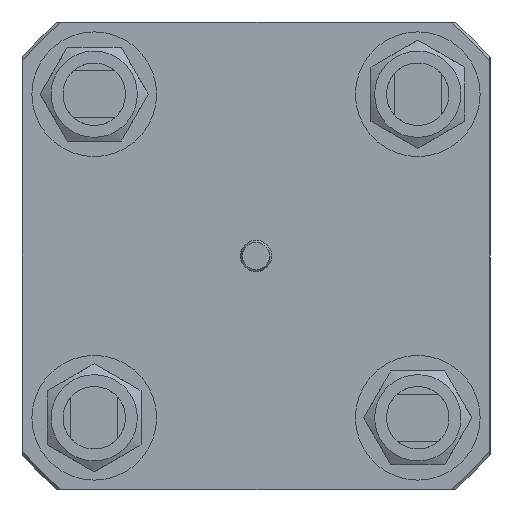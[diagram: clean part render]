
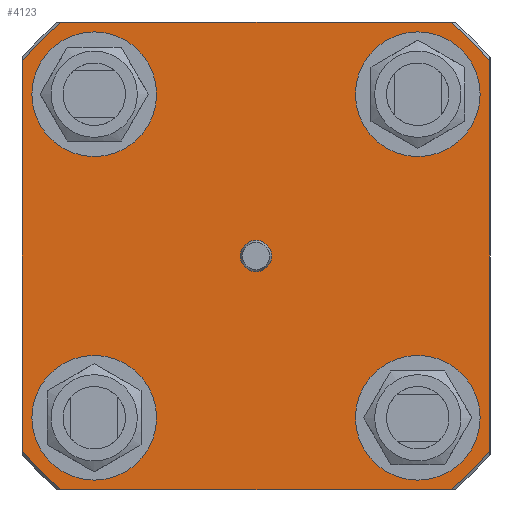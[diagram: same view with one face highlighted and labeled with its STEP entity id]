
A CAD part, left-side view. The second image highlights one B-rep face of the part: STEP entity #4123.
In plain terms, the highlighted planar face has unit normal (-1, 0, 0).
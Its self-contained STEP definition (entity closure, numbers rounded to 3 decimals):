
#242=FACE_BOUND('',#751,.T.);
#243=FACE_BOUND('',#752,.T.);
#244=FACE_BOUND('',#753,.T.);
#245=FACE_BOUND('',#754,.T.);
#246=FACE_BOUND('',#755,.T.);
#328=PLANE('',#4513);
#484=FACE_OUTER_BOUND('',#750,.T.);
#750=EDGE_LOOP('',(#3157,#3158,#3159,#3160,#3161,#3162,#3163,#3164));
#751=EDGE_LOOP('',(#3165));
#752=EDGE_LOOP('',(#3166));
#753=EDGE_LOOP('',(#3167));
#754=EDGE_LOOP('',(#3168));
#755=EDGE_LOOP('',(#3169));
#1019=LINE('',#6752,#1251);
#1020=LINE('',#6756,#1252);
#1021=LINE('',#6760,#1253);
#1022=LINE('',#6764,#1254);
#1251=VECTOR('',#5379,10.);
#1252=VECTOR('',#5382,10.);
#1253=VECTOR('',#5385,10.);
#1254=VECTOR('',#5388,10.);
#1452=CIRCLE('',#4437,3.);
#1463=CIRCLE('',#4479,12.);
#1465=CIRCLE('',#4483,12.);
#1467=CIRCLE('',#4487,12.);
#1471=CIRCLE('',#4502,12.);
#1480=CIRCLE('',#4514,58.5);
#1481=CIRCLE('',#4515,58.5);
#1482=CIRCLE('',#4516,58.5);
#1483=CIRCLE('',#4517,58.5);
#1730=VERTEX_POINT('',#6376);
#1777=VERTEX_POINT('',#6599);
#1779=VERTEX_POINT('',#6606);
#1781=VERTEX_POINT('',#6613);
#1797=VERTEX_POINT('',#6689);
#1812=VERTEX_POINT('',#6750);
#1813=VERTEX_POINT('',#6751);
#1814=VERTEX_POINT('',#6753);
#1815=VERTEX_POINT('',#6755);
#1816=VERTEX_POINT('',#6757);
#1817=VERTEX_POINT('',#6759);
#1818=VERTEX_POINT('',#6761);
#1819=VERTEX_POINT('',#6763);
#2170=EDGE_CURVE('',#1730,#1730,#1452,.T.);
#2243=EDGE_CURVE('',#1777,#1777,#1463,.T.);
#2246=EDGE_CURVE('',#1779,#1779,#1465,.T.);
#2249=EDGE_CURVE('',#1781,#1781,#1467,.T.);
#2274=EDGE_CURVE('',#1797,#1797,#1471,.T.);
#2291=EDGE_CURVE('',#1812,#1813,#1019,.T.);
#2292=EDGE_CURVE('',#1813,#1814,#1480,.T.);
#2293=EDGE_CURVE('',#1814,#1815,#1020,.T.);
#2294=EDGE_CURVE('',#1815,#1816,#1481,.T.);
#2295=EDGE_CURVE('',#1816,#1817,#1021,.T.);
#2296=EDGE_CURVE('',#1817,#1818,#1482,.T.);
#2297=EDGE_CURVE('',#1818,#1819,#1022,.T.);
#2298=EDGE_CURVE('',#1819,#1812,#1483,.T.);
#3157=ORIENTED_EDGE('',*,*,#2291,.T.);
#3158=ORIENTED_EDGE('',*,*,#2292,.T.);
#3159=ORIENTED_EDGE('',*,*,#2293,.T.);
#3160=ORIENTED_EDGE('',*,*,#2294,.T.);
#3161=ORIENTED_EDGE('',*,*,#2295,.T.);
#3162=ORIENTED_EDGE('',*,*,#2296,.T.);
#3163=ORIENTED_EDGE('',*,*,#2297,.T.);
#3164=ORIENTED_EDGE('',*,*,#2298,.T.);
#3165=ORIENTED_EDGE('',*,*,#2170,.T.);
#3166=ORIENTED_EDGE('',*,*,#2243,.T.);
#3167=ORIENTED_EDGE('',*,*,#2246,.T.);
#3168=ORIENTED_EDGE('',*,*,#2249,.T.);
#3169=ORIENTED_EDGE('',*,*,#2274,.T.);
#4123=ADVANCED_FACE('',(#484,#242,#243,#244,#245,#246),#328,.T.);
#4437=AXIS2_PLACEMENT_3D('',#6377,#5182,#5183);
#4479=AXIS2_PLACEMENT_3D('',#6600,#5292,#5293);
#4483=AXIS2_PLACEMENT_3D('',#6607,#5301,#5302);
#4487=AXIS2_PLACEMENT_3D('',#6614,#5310,#5311);
#4502=AXIS2_PLACEMENT_3D('',#6690,#5349,#5350);
#4513=AXIS2_PLACEMENT_3D('',#6749,#5377,#5378);
#4514=AXIS2_PLACEMENT_3D('',#6754,#5380,#5381);
#4515=AXIS2_PLACEMENT_3D('',#6758,#5383,#5384);
#4516=AXIS2_PLACEMENT_3D('',#6762,#5386,#5387);
#4517=AXIS2_PLACEMENT_3D('',#6765,#5389,#5390);
#5182=DIRECTION('center_axis',(1.,0.,0.));
#5183=DIRECTION('ref_axis',(0.,1.,0.));
#5292=DIRECTION('center_axis',(1.,0.,0.));
#5293=DIRECTION('ref_axis',(0.,-1.,0.));
#5301=DIRECTION('center_axis',(1.,0.,0.));
#5302=DIRECTION('ref_axis',(0.,0.,-1.));
#5310=DIRECTION('center_axis',(1.,0.,0.));
#5311=DIRECTION('ref_axis',(0.,1.,0.));
#5349=DIRECTION('center_axis',(1.,0.,0.));
#5350=DIRECTION('ref_axis',(0.,0.,
1.));
#5377=DIRECTION('center_axis',(-1.,0.,0.));
#5378=DIRECTION('ref_axis',(0.,0.,-1.));
#5379=DIRECTION('',(0.,-1.,0.));
#5380=DIRECTION('center_axis',(-1.,0.,0.));
#5381=DIRECTION('ref_axis',(0.,0.,-1.));
#5382=DIRECTION('',(0.,0.,1.));
#5383=DIRECTION('center_axis',(-1.,0.,0.));
#5384=DIRECTION('ref_axis',(0.,0.,-1.));
#5385=DIRECTION('',(0.,1.,0.));
#5386=DIRECTION('center_axis',(-1.,0.,0.));
#5387=DIRECTION('ref_axis',(0.,0.,-1.));
#5388=DIRECTION('',(0.,0.,-1.));
#5389=DIRECTION('center_axis',(-1.,0.,0.));
#5390=DIRECTION('ref_axis',(0.,0.,-1.));
#6376=CARTESIAN_POINT('',(-250.849,-3.,0.));
#6377=CARTESIAN_POINT('Origin',(-250.849,0.,
0.));
#6599=CARTESIAN_POINT('',(-250.849,-19.113,31.113));
#6600=CARTESIAN_POINT('Origin',(-250.849,-31.113,31.113));
#6606=CARTESIAN_POINT('',(-250.849,-31.113,-19.113));
#6607=CARTESIAN_POINT('Origin',(-250.849,-31.113,-31.113));
#6613=CARTESIAN_POINT('',(-250.849,19.113,-31.113));
#6614=CARTESIAN_POINT('Origin',(-250.849,31.113,-31.113));
#6689=CARTESIAN_POINT('',(-250.849,31.113,19.113));
#6690=CARTESIAN_POINT('Origin',(-250.849,31.113,31.113));
#6749=CARTESIAN_POINT('Origin',(-250.849,-3.1,0.));
#6750=CARTESIAN_POINT('',(-250.849,37.38,-45.));
#6751=CARTESIAN_POINT('',(-250.849,-37.38,-45.));
#6752=CARTESIAN_POINT('',(-250.849,20.95,-45.));
#6753=CARTESIAN_POINT('',(-250.849,-45.,-37.38));
#6754=CARTESIAN_POINT('Origin',(-250.849,0.,
0.));
#6755=CARTESIAN_POINT('',(-250.849,-45.,37.38));
#6756=CARTESIAN_POINT('',(-250.849,-45.,-22.5));
#6757=CARTESIAN_POINT('',(-250.849,-37.38,45.));
#6758=CARTESIAN_POINT('Origin',(-250.849,0.,
0.));
#6759=CARTESIAN_POINT('',(-250.849,37.38,45.));
#6760=CARTESIAN_POINT('',(-250.849,-24.05,45.));
#6761=CARTESIAN_POINT('',(-250.849,45.,37.38));
#6762=CARTESIAN_POINT('Origin',(-250.849,0.,
0.));
#6763=CARTESIAN_POINT('',(-250.849,45.,-37.38));
#6764=CARTESIAN_POINT('',(-250.849,45.,22.5));
#6765=CARTESIAN_POINT('Origin',(-250.849,0.,
0.));
